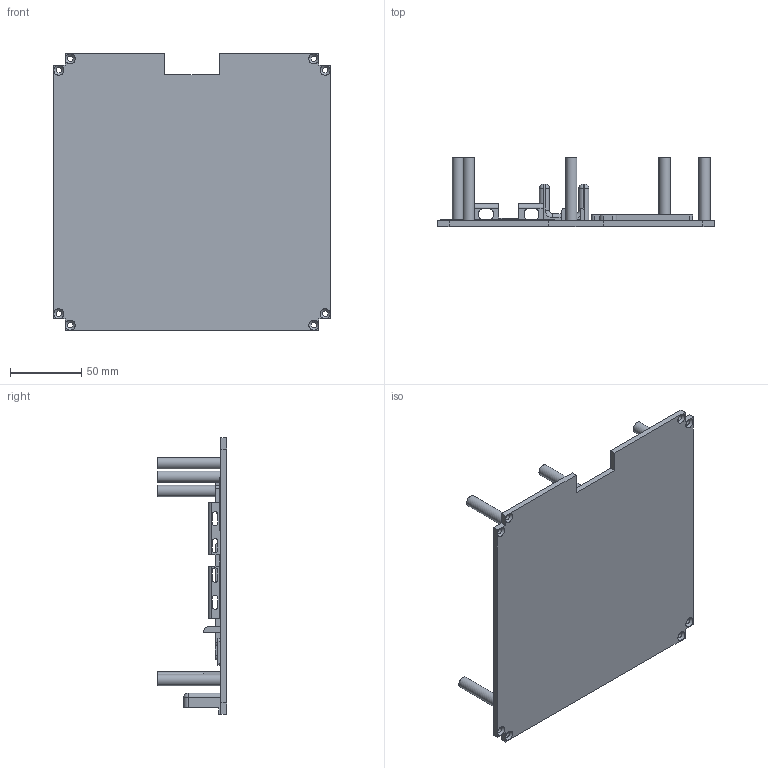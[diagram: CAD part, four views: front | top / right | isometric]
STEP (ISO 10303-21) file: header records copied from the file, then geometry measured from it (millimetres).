
FILE_DESCRIPTION(/* description */ (''),/* implementation_level */ '2;1');
FILE_NAME(/* name */ '/Users/valerian/Desktop/Electronics Stage.step',/* time_stamp */ '2020-10-24T17:43:23+02:00',/* author */ (''),/* organization */ (''),/* preprocessor_version */ 'ST-DEVELOPER v18.1',/* originating_system */ 'Autodesk Translation Framework v9.3.0.1241',/* authorisation */ '');
FILE_SCHEMA (('AUTOMOTIVE_DESIGN { 1 0 10303 214 3 1 1 }'));
Products named in the file (1): Electronics Stage
Bounding box: 194.3 x 48.5 x 194.3 mm (x, y, z)
Volume: 182833.1 mm3; surface area: 93703.2 mm2
Topology: 1 solids, 1 shells, 678 faces, 1922 edges, 1270 vertices
Faces by surface type: cylinder 448, plane 184, bspline 30, cone 10, sphere 4, torus 2
Full cylindrical faces by diameter (mm): 2.529 x84, 3.086 x39, 4 x6, 8 x5
Entity records: 42867 total; most frequent: CARTESIAN_POINT 26505, ORIENTED_EDGE 3844, DIRECTION 2716, EDGE_CURVE 1922, VERTEX_POINT 1270, LINE 906, VECTOR 906, AXIS2_PLACEMENT_3D 905
